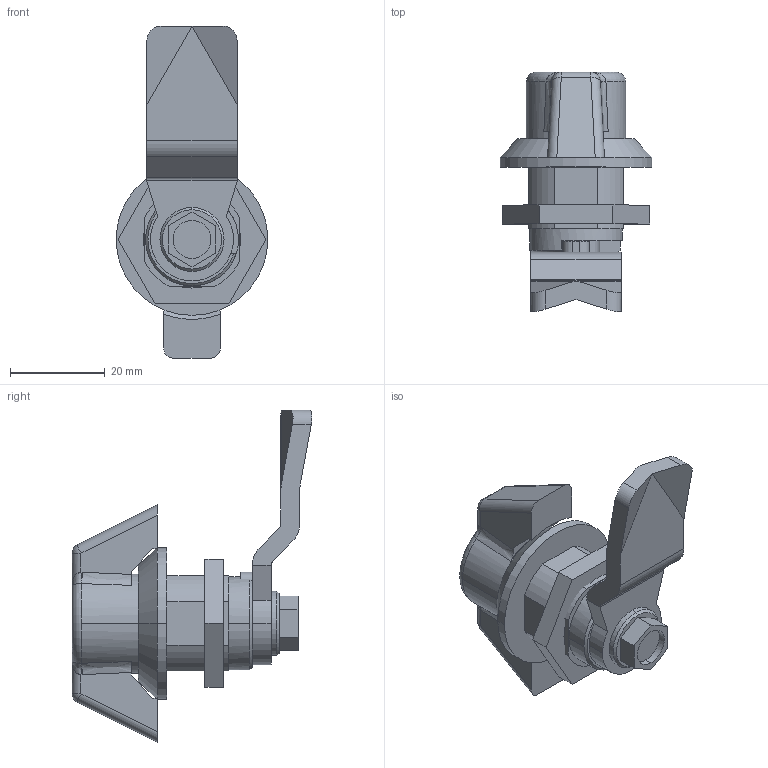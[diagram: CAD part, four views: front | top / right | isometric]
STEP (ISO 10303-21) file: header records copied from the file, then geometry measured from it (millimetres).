
FILE_DESCRIPTION (( 'STEP AP214' ), '1' );
FILE_NAME ('115-SKN-24-A4.step', '2023-07-12T12:42:13', ( '' ), ( '' ), 'SwSTEP 2.0', 'SolidWorks 2022', '' );
FILE_SCHEMA (( 'AUTOMOTIVE_DESIGN' ));
Length unit declared in the file: millimetre
Products named in the file (5): WB115_Betätigungswelle_Hebel^WB115_BE_SKN; WB115_Zunge^WB115_BE_24; 115-SKN-24-A4; WB115_Gehäuse^WB115_BE_32; WB115_Gegenmutter^WB115_BE
Assembly tree (4 placements, depth 2):
  115-SKN-24-A4
    WB115_Gehäuse^WB115_BE_32
    WB115_Betätigungswelle_Hebel^WB115_BE_SKN
    WB115_Zunge^WB115_BE_24
    WB115_Gegenmutter^WB115_BE
Bounding box: 32 x 50.59 x 70 mm (x, y, z)
Volume: 23689.4 mm3; surface area: 12501.5 mm2
Topology: 4 solids, 4 shells, 159 faces, 393 edges, 248 vertices
Faces by surface type: plane 76, cylinder 57, bspline 12, cone 7, sphere 5, torus 2
Entity records: 5778 total; most frequent: CARTESIAN_POINT 1353, DIRECTION 779, ORIENTED_EDGE 776, EDGE_CURVE 388, AXIS2_PLACEMENT_3D 286, VERTEX_POINT 248, LINE 207, VECTOR 207
